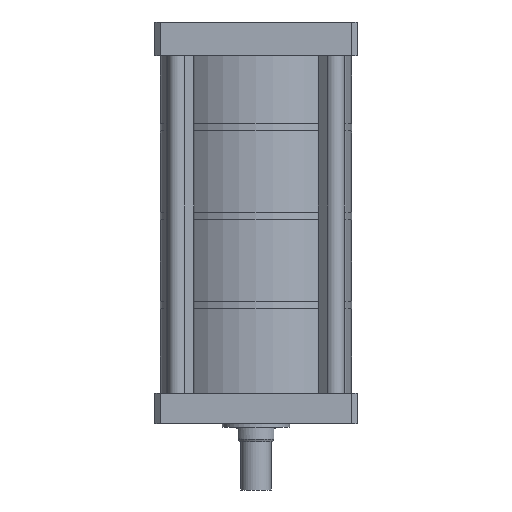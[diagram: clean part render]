
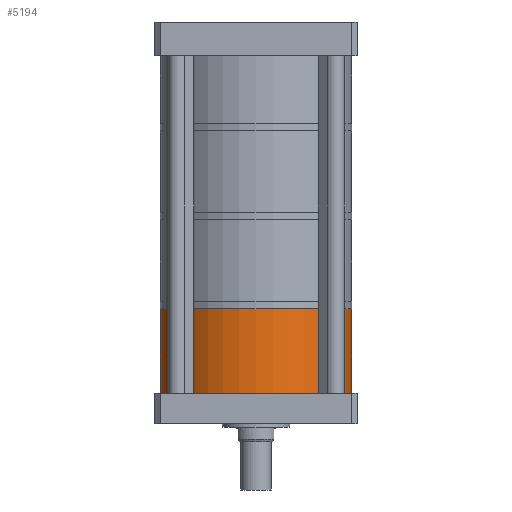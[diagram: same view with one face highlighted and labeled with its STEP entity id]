
A CAD part, front view. The second image highlights one B-rep face of the part: STEP entity #5194.
In plain terms, the highlighted cylindrical face has radius 85 mm (diameter 170 mm), a partial arc.
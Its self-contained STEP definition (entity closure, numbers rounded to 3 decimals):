
#9 = DIRECTION ( 'NONE',  ( 1., 0., 0. ) ) ;
#164 = EDGE_LOOP ( 'NONE', ( #1101, #5069, #6226, #7481 ) ) ;
#268 = DIRECTION ( 'NONE',  ( -1., 0., 0. ) ) ;
#506 = DIRECTION ( 'NONE',  ( 0., 0., 1. ) ) ;
#565 = DIRECTION ( 'NONE',  ( 0., 0., 1. ) ) ;
#929 = VERTEX_POINT ( 'NONE', #5967 ) ;
#1101 = ORIENTED_EDGE ( 'NONE', *, *, #7118, .F. ) ;
#1139 = CIRCLE ( 'NONE', #3311, 85. ) ;
#1620 = DIRECTION ( 'NONE',  ( 0., 0., -1. ) ) ;
#1713 = CARTESIAN_POINT ( 'NONE',  ( 85., 0., -300.5 ) ) ;
#1865 = VERTEX_POINT ( 'NONE', #8340 ) ;
#2065 = AXIS2_PLACEMENT_3D ( 'NONE', #6296, #1620, #7064 ) ;
#2732 = CARTESIAN_POINT ( 'NONE',  ( 85., 0., -225. ) ) ;
#2794 = CYLINDRICAL_SURFACE ( 'NONE', #8836, 85. ) ;
#3311 = AXIS2_PLACEMENT_3D ( 'NONE', #9572, #4986, #268 ) ;
#3335 = LINE ( 'NONE', #5990, #8996 ) ;
#4112 = VERTEX_POINT ( 'NONE', #2732 ) ;
#4722 = VECTOR ( 'NONE', #565, 1000. ) ;
#4729 = DIRECTION ( 'NONE',  ( 0., 0., 1. ) ) ;
#4986 = DIRECTION ( 'NONE',  ( 0., 0., -1. ) ) ;
#5069 = ORIENTED_EDGE ( 'NONE', *, *, #8299, .F. ) ;
#5194 = ADVANCED_FACE ( 'NONE', ( #7881 ), #2794, .T. ) ;
#5275 = CARTESIAN_POINT ( 'NONE',  ( 85., 0., -300.5 ) ) ;
#5286 = VERTEX_POINT ( 'NONE', #1713 ) ;
#5967 = CARTESIAN_POINT ( 'NONE',  ( -85., 0., -225. ) ) ;
#5990 = CARTESIAN_POINT ( 'NONE',  ( -85., 0., -300.5 ) ) ;
#6226 = ORIENTED_EDGE ( 'NONE', *, *, #7644, .T. ) ;
#6296 = CARTESIAN_POINT ( 'NONE',  ( 0., 0., -300.5 ) ) ;
#6523 = LINE ( 'NONE', #5275, #4722 ) ;
#7014 = CARTESIAN_POINT ( 'NONE',  ( 0., 0., -300.5 ) ) ;
#7064 = DIRECTION ( 'NONE',  ( -1., 0., 0. ) ) ;
#7118 = EDGE_CURVE ( 'NONE', #1865, #929, #3335, .T. ) ;
#7481 = ORIENTED_EDGE ( 'NONE', *, *, #7774, .T. ) ;
#7644 = EDGE_CURVE ( 'NONE', #5286, #4112, #6523, .T. ) ;
#7719 = CIRCLE ( 'NONE', #2065, 85. ) ;
#7774 = EDGE_CURVE ( 'NONE', #4112, #929, #1139, .T. ) ;
#7881 = FACE_OUTER_BOUND ( 'NONE', #164, .T. ) ;
#8299 = EDGE_CURVE ( 'NONE', #5286, #1865, #7719, .T. ) ;
#8340 = CARTESIAN_POINT ( 'NONE',  ( -85., 0., -300.5 ) ) ;
#8836 = AXIS2_PLACEMENT_3D ( 'NONE', #7014, #4729, #9 ) ;
#8996 = VECTOR ( 'NONE', #506, 1000. ) ;
#9572 = CARTESIAN_POINT ( 'NONE',  ( 0., 0., -225. ) ) ;
